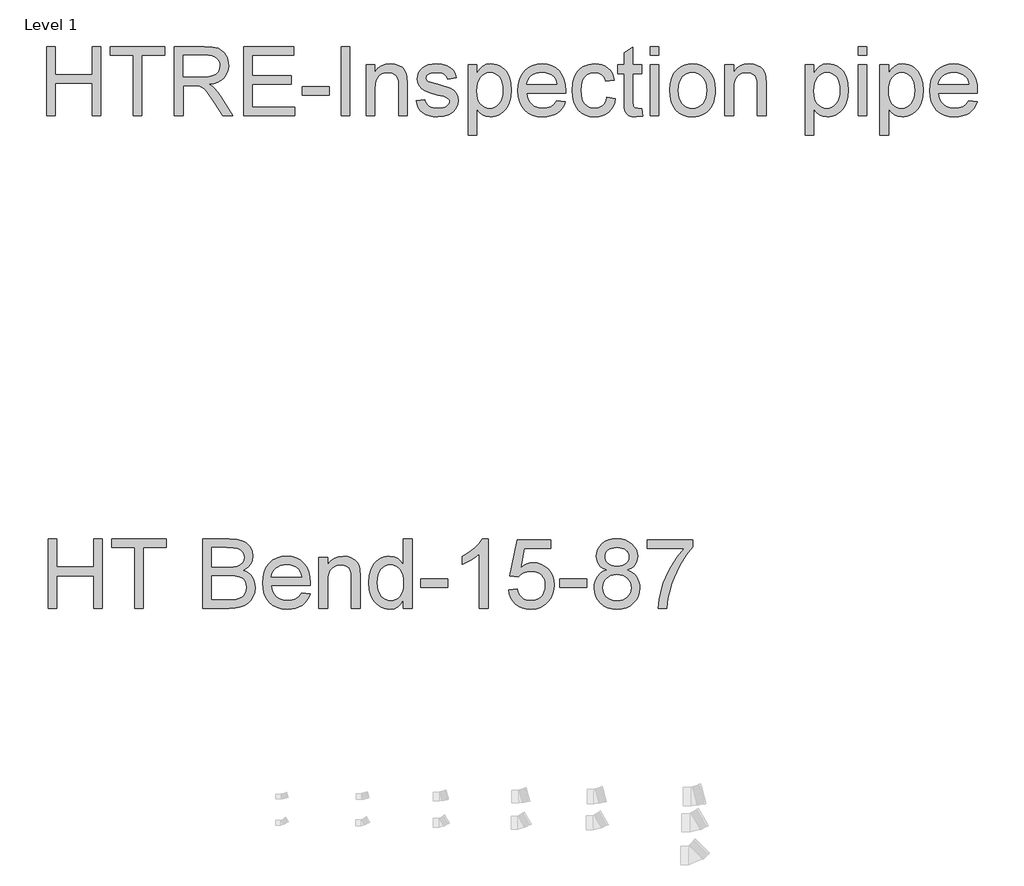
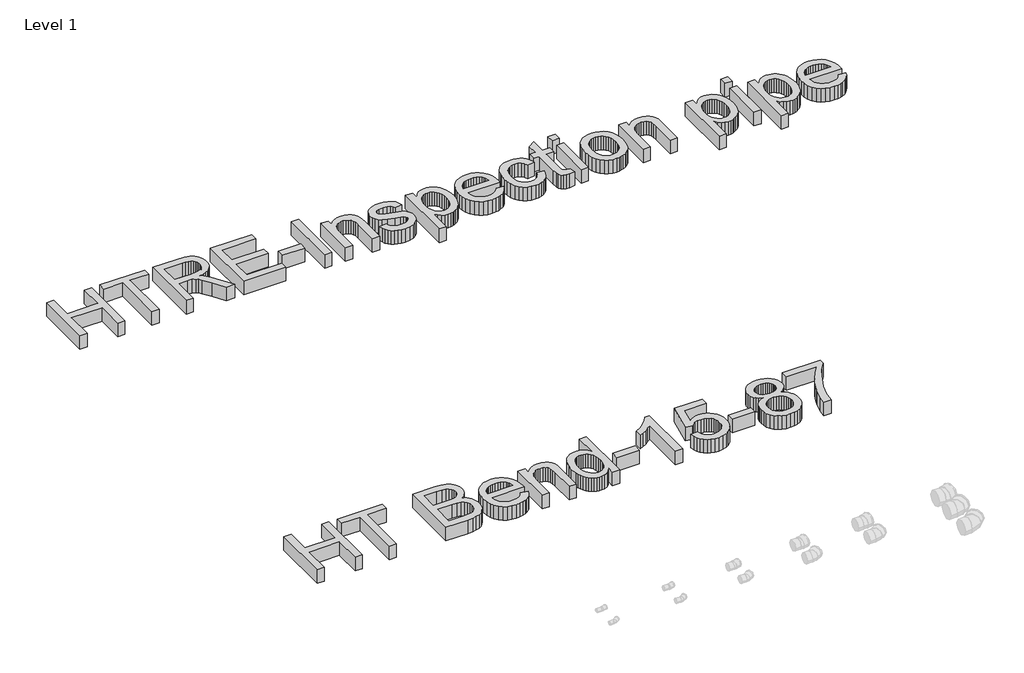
# One storey, part 24 of 29: 2 proxies.
"""IFC4 building model written with IfcOpenShell, lengths in millimetres."""

from ifc_helpers import new_model, si_unit, origin, origin_with_axes, place, context, project, spatial, polyline, outline, extrude, element, save

model = new_model("IFC4")

# Units and contexts
model_context = context("Model", 3, world=origin())
ifc_project = project(units=[si_unit("LENGTHUNIT", "METRE", prefix="MILLI")], contexts=[model_context])

# Site, building, storey
site = spatial("IfcSite", under=ifc_project)
building = spatial("IfcBuilding", under=site)
storey = spatial("IfcBuildingStorey", under=building, Name="Level 1", Elevation=0.0)

# Proxies
placement = place(None, origin())
element("IfcBuildingElementProxy", 1, Name="600mm Arial", ObjectType="600mm Arial", at=placement, inside=storey, context=model_context, shape_type="SweptSolid", body=[
    extrude(outline(polyline([(14553.2203393, 30231.2955865), (14553.2203393, 30834.0334474), (14628.5625719, 30834.0334474), (14628.5625719, 30589.1711914), (14948.7670605, 30589.1711914), (14948.7670605, 30834.0334474), (15024.1092931, 30834.0334474), (15024.1092931, 30231.2955865), (14948.7670605, 30231.2955865), (14948.7670605, 30513.8289588), (14628.5625719, 30513.8289588), (14628.5625719, 30231.2955865), (14553.2203393, 30231.2955865)])), origin_with_axes(), (0.0, 0.0, 1.0), 150.0),
    extrude(outline(polyline([(15306.6426654, 30231.2955865), (15306.6426654, 30758.6912148), (15108.8693048, 30758.6912148), (15108.8693048, 30834.0334474), (15579.7582586, 30834.0334474), (15579.7582586, 30758.6912148), (15381.984898, 30758.6912148), (15381.984898, 30231.2955865), (15306.6426654, 30231.2955865)])), origin_with_axes(), (0.0, 0.0, 1.0), 150.0),
    extrude(outline(polyline([(15664.5182703, 30231.2955865), (15664.5182703, 30834.0334474), (15924.2429589, 30834.0334474), (15994.0485675, 30829.9683513), (16044.8346769, 30817.7730632), (16064.4335902, 30808.0793726), (16081.9539703, 30795.2586851), (16097.395817, 30779.3110006), (16110.7591305, 30760.2363191), (16121.5426715, 30739.0601118), (16129.2452007, 30716.8078496), (16133.8667183, 30693.4795326), (16135.4072241, 30669.0751607), (16132.8550428, 30638.1178909), (16125.1984988, 30609.6990067), (16112.4375921, 30583.8185084), (16094.5723227, 30560.4763958), (16071.3727644, 30540.41763), (16042.6089909, 30524.387172), (16008.2810022, 30512.3850219), (15968.3887983, 30504.4111797), (15993.220833, 30488.1875837), (16011.2102626, 30472.1847169), (16042.075562, 30435.5804584), (16072.2786738, 30394.6351923), (16172.7840349, 30231.2955865), (16085.22812, 30231.2955865), (16006.7956786, 30356.228312), (15950.1418514, 30438.9281846), (15929.0806072, 30463.0428493), (15910.3370195, 30477.9972524), (15874.5053132, 30492.3446503), (15830.8009321, 30494.9934006), (15739.8605029, 30494.9934006), (15739.8605029, 30231.2955865), (15664.5182703, 30231.2955865)]), holes=[polyline([(15739.8605029, 30570.3356332), (15908.4976095, 30570.3356332), (15956.9292742, 30573.0027777), (15994.50842, 30581.0042111), (16022.7985454, 30594.8733623), (16043.363149, 30615.1436603), (16055.8895309, 30639.6629952), (16060.0649915, 30666.2792576), (16058.0738302, 30685.5470771), (16052.1003463, 30703.0306689), (16042.1445398, 30718.730033), (16028.2064108, 30732.6451695), (16009.9640623, 30744.0403143), (15987.0955978, 30752.1797035), (15959.6010172, 30757.0633369), (15927.4803205, 30758.6912148), (15739.8605029, 30758.6912148), (15739.8605029, 30570.3356332)])]), origin_with_axes(), (0.0, 0.0, 1.0), 150.0),
    extrude(outline(polyline([(16267.2561312, 30231.2955865), (16267.2561312, 30834.0334474), (16700.4739687, 30834.0334474), (16700.4739687, 30758.6912148), (16342.5983638, 30758.6912148), (16342.5983638, 30579.7534123), (16681.6384106, 30579.7534123), (16681.6384106, 30504.4111797), (16342.5983638, 30504.4111797), (16342.5983638, 30306.6378191), (16709.8917478, 30306.6378191), (16709.8917478, 30231.2955865), (16267.2561312, 30231.2955865)])), origin_with_axes(), (0.0, 0.0, 1.0), 150.0),
    extrude(outline(polyline([(16775.8162014, 30410.2333889), (16775.8162014, 30485.5756216), (17011.2606783, 30485.5756216), (17011.2606783, 30410.2333889), (16775.8162014, 30410.2333889)])), origin_with_axes(), (0.0, 0.0, 1.0), 150.0),
    extrude(outline(polyline([(17114.8562481, 30231.2955865), (17114.8562481, 30834.0334474), (17190.1984807, 30834.0334474), (17190.1984807, 30231.2955865), (17114.8562481, 30231.2955865)])), origin_with_axes(), (0.0, 0.0, 1.0), 150.0),
    extrude(outline(polyline([(17331.4651669, 30231.2955865), (17331.4651669, 30673.9312031), (17406.8073995, 30673.9312031), (17406.8073995, 30612.1270279), (17432.9822034, 30643.2866329), (17464.4177199, 30665.5434936), (17501.1139489, 30678.89761), (17543.0708905, 30683.3489822), (17580.2085779, 30679.7621327), (17614.2192684, 30669.0015843), (17642.5829702, 30652.4101064), (17662.7796917, 30631.330468), (17676.483296, 30605.8178517), (17685.3676462, 30575.9274396), (17689.3407718, 30503.0868045), (17689.3407718, 30231.2955865), (17613.9985392, 30231.2955865), (17613.9985392, 30492.9332615), (17611.8280354, 30531.8919647), (17605.3165241, 30559.593479), (17593.3051769, 30579.4407126), (17574.6351657, 30594.8365741), (17550.7044419, 30604.7142057), (17522.9109572, 30608.0067495), (17500.0332956, 30606.1581425), (17478.7835118, 30600.6123214), (17459.1616059, 30591.3692863), (17441.1675778, 30578.4290371), (17426.1349998, 30560.3200459), (17415.3974441, 30535.5707847), (17408.9549106, 30504.1812535), (17406.8073995, 30466.1514522), (17406.8073995, 30231.2955865), (17331.4651669, 30231.2955865)])), origin_with_axes(), (0.0, 0.0, 1.0), 150.0),
    extrude(outline(polyline([(17764.6830044, 30363.1444936), (17840.025237, 30372.5622726), (17844.5777767, 30355.3821835), (17851.9078254, 30340.3358099), (17862.0153833, 30327.4231518), (17874.9004501, 30316.6442094), (17890.5998143, 30308.1461353), (17909.1502639, 30302.0760824), (17954.8044195, 30297.22004), (17999.9067521, 30301.6714122), (18017.4363292, 30307.2356273), (18031.6181801, 30315.0255286), (18050.3801618, 30334.3761215), (18055.0706573, 30345.2102463), (18056.6341558, 30356.8169232), (18055.0614602, 30366.9888604), (18050.3433736, 30376.0203634), (18031.4710273, 30390.6620668), (18003.2544783, 30400.2269987), (17953.9215027, 30412.1463753), (17885.1643578, 30432.0303972), (17840.4666954, 30449.0081512), (17811.7535057, 30467.5310097), (17790.9497788, 30492.0503447), (17778.3130323, 30521.0026577), (17774.1007835, 30552.8244503), (17777.4852978, 30582.0158866), (17787.6388409, 30608.9632427), (17803.6417077, 30632.5996609), (17824.5741932, 30651.8582834), (17845.37792, 30663.9799951), (17872.472429, 30674.1519323), (17903.7975809, 30681.0497197), (17937.2932365, 30683.3489822), (17986.3319065, 30679.6517681), (18028.9694297, 30668.560126), (18063.2560317, 30651.1593076), (18087.2419378, 30628.5345649), (18103.13444, 30599.0120348), (18113.1408302, 30560.9178542), (18037.7985976, 30551.5000751), (18028.288848, 30575.2100697), (18009.471684, 30593.0707405), (17981.1631645, 30604.2727473), (17943.1793484, 30608.0067495), (17899.9164258, 30604.4382942), (17871.0744774, 30593.7329281), (17854.8508814, 30578.2818843), (17849.4430161, 30560.4763958), (17851.6870962, 30548.8881129), (17858.4193368, 30538.5506289), (17869.9340432, 30529.3167908), (17886.5255212, 30521.9223627), (17951.4199051, 30505.8827077), (18062.0052329, 30470.4188833), (18091.2150633, 30453.4595234), (18113.3615594, 30430.2461695), (18127.3226811, 30400.7052453), (18131.9763884, 30364.7631743), (18126.5133407, 30327.6070928), (18110.1241979, 30292.6583033), (18083.4343591, 30262.6575266), (18047.0692239, 30240.3454836), (18003.1441137, 30226.4947264), (17953.7743499, 30221.8778074), (17913.224557, 30224.1034935), (17877.8067179, 30230.7805517), (17847.5208327, 30241.908982), (17822.3669012, 30257.4887845), (17801.8206918, 30277.4463828), (17785.3579725, 30301.7082004), (17772.9787434, 30330.2742373), (17764.6830044, 30363.1444936)])), origin_with_axes(), (0.0, 0.0, 1.0), 150.0),
    extrude(outline(polyline([(18216.7364001, 30061.7755631), (18216.7364001, 30673.9312031), (18292.0786327, 30673.9312031), (18292.0786327, 30600.0604984), (18316.65315, 30636.4992101), (18344.1707232, 30662.5268612), (18376.2500332, 30678.1434519), (18414.5097607, 30683.3489822), (18440.7857322, 30681.5279663), (18465.461417, 30676.0649187), (18488.5368151, 30666.9598393), (18510.0119266, 30654.2127281), (18529.4177019, 30638.1546791), (18546.2850913, 30619.1167858), (18560.6140951, 30597.0990484), (18572.404713, 30572.1014668), (18588.1868506, 30516.5880737), (18593.4475631, 30455.9979091), (18587.5062689, 30391.5633777), (18580.0796511, 30361.8982933), (18569.6823862, 30333.9346631), (18556.4570285, 30308.4036527), (18540.5461322, 30286.0364274), (18521.9496974, 30266.8329872), (18500.6677239, 30250.7933322), (18477.7440771, 30238.1427901), (18454.222622, 30229.1066886), (18430.1033587, 30223.6850277), (18405.3862872, 30221.8778074), (18370.7501973, 30226.7154556), (18339.8297156, 30241.2284004), (18313.3606061, 30263.1357732), (18292.0786327, 30290.1567057), (18292.0786327, 30061.7755631), (18216.7364001, 30061.7755631)]), holes=[polyline([(18292.0786327, 30449.0817276), (18294.1157792, 30412.7717747), (18300.2272189, 30381.5385933), (18310.4129516, 30355.3821835), (18324.6729774, 30334.3025451), (18341.839271, 30318.0789491), (18360.7438071, 30306.4906663), (18381.3865855, 30299.5376966), (18403.7676064, 30297.22004), (18426.470524, 30299.62047), (18447.4903815, 30306.8217601), (18466.8271789, 30318.8239102), (18484.4809162, 30335.6269203), (18499.1915974, 30357.4699138), (18509.6992269, 30384.5920139), (18516.0038046, 30416.9932206), (18518.1053305, 30454.673534), (18516.0543884, 30490.6707872), (18509.901562, 30521.8487863), (18499.6468514, 30548.2075312), (18485.2902565, 30569.747022), (18468.0825762, 30586.4856528), (18449.2746092, 30598.4418177), (18428.8663555, 30605.6155166), (18406.8578152, 30608.0067495), (18384.9182527, 30605.4637653), (18364.2754742, 30597.8348124), (18344.9294798, 30585.1198909), (18326.8802694, 30567.3190009), (18311.6545533, 30544.6712656), (18300.7790419, 30517.4158082), (18294.253735, 30485.5526289), (18292.0786327, 30449.0817276)])]), origin_with_axes(), (0.0, 0.0, 1.0), 150.0),
    extrude(outline(polyline([(18988.1113675, 30363.1444936), (19061.9820722, 30353.7267145), (19050.6559053, 30324.139805), (19035.3658098, 30298.0661686), (19016.1117859, 30275.5058053), (18992.8938335, 30256.458715), (18965.9510759, 30241.3295679), (18935.5226363, 30230.5230343), (18901.6085149, 30224.0391141), (18864.2087116, 30221.8778074), (18817.460107, 30225.6072111), (18775.8066681, 30236.7954223), (18739.2483949, 30255.4424409), (18707.7852872, 30281.548267), (18682.484203, 30314.3863336), (18664.412, 30353.2300738), (18653.5686782, 30398.0794875), (18649.9542376, 30448.9345748), (18653.6054664, 30501.514109), (18664.5591528, 30547.8580433), (18682.8152968, 30587.9663779), (18708.3738984, 30621.8391126), (18739.7542326, 30648.7496805), (18775.4755743, 30667.9715148), (18815.5379236, 30679.5046153), (18859.9412804, 30683.3489822), (18902.914496, 30679.5138124), (18941.7766303, 30668.008303), (18976.5276832, 30648.832454), (19007.1676549, 30621.9862654), (19032.179032, 30588.1871071), (19050.0443014, 30548.1523489), (19060.7634631, 30501.881991), (19064.3365169, 30449.3760332), (19063.8950586, 30429.0689471), (18725.2964702, 30429.0689471), (18729.6604704, 30399.003791), (18738.3378869, 30372.6726372), (18751.3287199, 30350.0754857), (18768.6329692, 30331.2123364), (18789.2941418, 30316.3407067), (18812.3557444, 30305.7181141), (18837.8177769, 30299.3445585), (18865.6802396, 30297.22004), (18905.779377, 30301.1563774), (18939.5509442, 30312.9653894), (18966.994941, 30333.3828401), (18988.1113675, 30363.1444936)]), holes=[polyline([(18725.2964702, 30504.4111797), (18988.9942843, 30504.4111797), (18978.8039531, 30544.2160116), (18970.0391645, 30559.8693905), (18958.8279607, 30572.690078), (18938.2817513, 30588.1411218), (18914.9028505, 30599.1775817), (18888.6912584, 30605.7994576), (18859.6469748, 30608.0067495), (18833.1548727, 30606.2455145), (18808.8608654, 30600.9618093), (18786.7649531, 30592.1556341), (18766.8671356, 30579.8269887), (18750.1698916, 30564.5460903), (18737.6756993, 30546.883156), (18729.3845589, 30526.8381858), (18725.2964702, 30504.4111797)])]), origin_with_axes(), (0.0, 0.0, 1.0), 150.0),
    extrude(outline(polyline([(19422.2121219, 30391.3978308), (19497.5543545, 30381.9800517), (19489.359783, 30346.4288554), (19476.5482925, 30314.9703463), (19459.119883, 30287.6045244), (19437.0745545, 30264.3313897), (19411.3412089, 30245.7579474), (19382.8487484, 30232.491203), (19351.5971729, 30224.5311563), (19317.5864824, 30221.8778074), (19275.3306368, 30225.57962), (19237.4433898, 30236.6850577), (19203.9247415, 30255.1941206), (19174.7746919, 30281.1068086), (19151.1796604, 30313.9356782), (19134.3260665, 30353.1932856), (19124.2139102, 30398.8796309), (19120.8431914, 30450.994714), (19126.6005446, 30518.0412076), (19133.7972362, 30548.2121298), (19143.8726043, 30576.1481688), (19156.8956269, 30601.2883046), (19172.9352819, 30623.0715172), (19191.9915693, 30641.4978067), (19214.064489, 30656.5671729), (19238.1561611, 30668.2842145), (19263.2687058, 30676.6535298), (19289.4021231, 30681.6751191), (19316.5564128, 30683.3489822), (19349.9830906, 30681.0497197), (19380.2183921, 30674.1519323), (19407.2623173, 30662.6556199), (19431.1148661, 30646.5607826), (19451.3713685, 30626.2353024), (19467.6271542, 30602.0470612), (19479.8822231, 30573.9960591), (19488.1365754, 30542.082296), (19412.7943428, 30532.6645169), (19399.1275267, 30565.5347732), (19377.8455532, 30589.097615), (19350.1256449, 30603.2794659), (19317.145024, 30608.0067495), (19291.5450357, 30605.6798959), (19268.455842, 30598.6993351), (19247.8774429, 30587.065067), (19229.8098384, 30570.7770916), (19215.0991571, 30549.45833), (19204.5915276, 30522.7317031), (19198.2869499, 30490.5972108), (19196.185424, 30453.0548532), (19198.2409647, 30414.946877), (19204.4075866, 30382.4399042), (19214.6852899, 30355.5339348), (19229.0740744, 30334.2289687), (19246.7829939, 30318.0375624), (19267.0211022, 30306.4722722), (19289.7883992, 30299.5330981), (19315.0848849, 30297.22004), (19354.0987705, 30302.9957873), (19370.9707585, 30310.2154715), (19386.0861099, 30320.3230293), (19399.0217606, 30333.4288254), (19409.3546461, 30349.6432243), (19417.0847665, 30368.9662261), (19422.2121219, 30391.3978308)])), origin_with_axes(), (0.0, 0.0, 1.0), 150.0),
    extrude(outline(polyline([(19723.5810523, 30294.1298313), (19732.9988314, 30229.0882945), (19676.6393097, 30221.8778074), (19640.4765096, 30225.0048044), (19613.5107593, 30234.3857952), (19594.454472, 30248.8435577), (19582.0200606, 30267.2008692), (19575.1774555, 30298.7283562), (19572.8965871, 30352.6966449), (19572.8965871, 30598.5889705), (19516.3899126, 30598.5889705), (19516.3899126, 30673.9312031), (19572.8965871, 30673.9312031), (19572.8965871, 30781.4998985), (19648.2388197, 30825.7928907), (19648.2388197, 30673.9312031), (19723.5810523, 30673.9312031), (19723.5810523, 30598.5889705), (19648.2388197, 30598.5889705), (19648.2388197, 30354.9039369), (19652.2119452, 30316.0555982), (19665.0878151, 30302.2968116), (19675.958728, 30298.4892329), (19690.7659783, 30297.22004), (19723.5810523, 30294.1298313)])), origin_with_axes(), (0.0, 0.0, 1.0), 150.0),
    extrude(outline(polyline([(19798.9232849, 30758.6912148), (19798.9232849, 30834.0334474), (19874.2655175, 30834.0334474), (19874.2655175, 30758.6912148), (19798.9232849, 30758.6912148)])), origin_with_axes(), (0.0, 0.0, 1.0), 150.0),
    extrude(outline(polyline([(19798.9232849, 30231.2955865), (19798.9232849, 30673.9312031), (19874.2655175, 30673.9312031), (19874.2655175, 30231.2955865), (19798.9232849, 30231.2955865)])), origin_with_axes(), (0.0, 0.0, 1.0), 150.0),
    extrude(outline(polyline([(19968.4433083, 30452.6133948), (19972.5176014, 30509.9386067), (19984.7404807, 30559.3359616), (20005.1119462, 30600.8054595), (20033.6319978, 30634.3471004), (20062.3451876, 30655.7854237), (20094.0382214, 30671.0985117), (20128.7110995, 30680.2863645), (20166.3638217, 30683.3489822), (20207.9298886, 30679.6195784), (20245.513633, 30668.4313673), (20279.1150547, 30649.7843486), (20308.7341538, 30623.6785225), (20332.9085994, 30590.9968058), (20350.1760606, 30552.6221152), (20360.5365373, 30508.5544507), (20363.9900295, 30458.7938123), (20362.4633192, 30418.4647486), (20357.8831884, 30382.6790275), (20350.249637, 30351.4366491), (20339.562665, 30324.7376133), (20325.9556297, 30301.6760107), (20309.5618883, 30281.3459319), (20290.3814408, 30263.747377), (20268.4142872, 30248.8803459), (20244.5157531, 30237.0667353), (20219.5411641, 30228.628442), (20193.4905203, 30223.5654661), (20166.3638217, 30221.8778074), (20124.1907495, 30225.5934156), (20086.2575173, 30236.74024), (20052.564125, 30255.3182808), (20023.1105728, 30281.3275378), (19999.1936446, 30314.3265528), (19982.1101244, 30353.8738673), (19971.8600123, 30399.9694813), (19968.4433083, 30452.6133948)]), holes=[polyline([(20043.7855409, 30452.7605476), (20045.9652417, 30416.2160699), (20052.5043442, 30384.5736198), (20063.4028483, 30357.8331973), (20078.6607541, 30335.9948023), (20097.2204007, 30319.0308438), (20118.0241275, 30306.9137306), (20141.0719345, 30299.6434627), (20166.3638217, 30297.22004), (20191.5269502, 30299.6572582), (20214.4827867, 30306.9689129), (20235.2313312, 30319.155004), (20253.7725838, 30336.2155315), (20269.0304895, 30358.2700571), (20279.9289936, 30385.4381425), (20286.4680961, 30417.7197875), (20288.6477969, 30455.1149923), (20286.4543005, 30490.5006418), (20279.8738113, 30521.3153574), (20268.9063293, 30547.5591392), (20253.5518546, 30569.2319873), (20234.9416241, 30586.1959458), (20214.2068752, 30598.313059), (20191.3476077, 30605.5833269), (20166.3638217, 30608.0067495), (20141.0719345, 30605.592524), (20118.0241275, 30598.3498472), (20097.2204007, 30586.2787192), (20078.6607541, 30569.3791401), (20063.4028483, 30547.6051245), (20052.5043442, 30520.9106872), (20045.9652417, 30489.2958282), (20043.7855409, 30452.7605476)])]), origin_with_axes(), (0.0, 0.0, 1.0), 150.0),
    extrude(outline(polyline([(20448.7500412, 30231.2955865), (20448.7500412, 30673.9312031), (20524.0922738, 30673.9312031), (20524.0922738, 30612.1270279), (20550.2670778, 30643.2866329), (20581.7025943, 30665.5434936), (20618.3988233, 30678.89761), (20660.3557648, 30683.3489822), (20697.4934522, 30679.7621327), (20731.5041427, 30669.0015843), (20759.8678445, 30652.4101064), (20780.0645661, 30631.330468), (20793.7681704, 30605.8178517), (20802.6525206, 30575.9274396), (20806.6256461, 30503.0868045), (20806.6256461, 30231.2955865), (20731.2834135, 30231.2955865), (20731.2834135, 30492.9332615), (20729.1129097, 30531.8919647), (20722.6013984, 30559.593479), (20710.5900513, 30579.4407126), (20691.92004, 30594.8365741), (20667.9893162, 30604.7142057), (20640.1958315, 30608.0067495), (20617.3181699, 30606.1581425), (20596.0683862, 30600.6123214), (20576.4464802, 30591.3692863), (20558.4524522, 30578.4290371), (20543.4198741, 30560.3200459), (20532.6823184, 30535.5707847), (20526.239785, 30504.1812535), (20524.0922738, 30466.1514522), (20524.0922738, 30231.2955865), (20448.7500412, 30231.2955865)])), origin_with_axes(), (0.0, 0.0, 1.0), 150.0),
    extrude(outline(polyline([(21145.6656929, 30061.7755631), (21145.6656929, 30673.9312031), (21221.0079255, 30673.9312031), (21221.0079255, 30600.0604984), (21245.5824428, 30636.4992101), (21273.100016, 30662.5268612), (21305.179326, 30678.1434519), (21343.4390535, 30683.3489822), (21369.715025, 30681.5279663), (21394.3907098, 30676.0649187), (21417.4661079, 30666.9598393), (21438.9412194, 30654.2127281), (21458.3469947, 30638.1546791), (21475.2143841, 30619.1167858), (21489.5433879, 30597.0990484), (21501.3340058, 30572.1014668), (21517.1161434, 30516.5880737), (21522.3768559, 30455.9979091), (21516.4355617, 30391.5633777), (21509.0089439, 30361.8982933), (21498.611679, 30333.9346631), (21485.3863213, 30308.4036527), (21469.475425, 30286.0364274), (21450.8789902, 30266.8329872), (21429.5970167, 30250.7933322), (21406.6733699, 30238.1427901), (21383.1519148, 30229.1066886), (21359.0326515, 30223.6850277), (21334.31558, 30221.8778074), (21299.6794901, 30226.7154556), (21268.7590084, 30241.2284004), (21242.2898989, 30263.1357732), (21221.0079255, 30290.1567057), (21221.0079255, 30061.7755631), (21145.6656929, 30061.7755631)]), holes=[polyline([(21221.0079255, 30449.0817276), (21223.045072, 30412.7717747), (21229.1565117, 30381.5385933), (21239.3422444, 30355.3821835), (21253.6022702, 30334.3025451), (21270.7685638, 30318.0789491), (21289.6730999, 30306.4906663), (21310.3158783, 30299.5376966), (21332.6968992, 30297.22004), (21355.3998168, 30299.62047), (21376.4196743, 30306.8217601), (21395.7564717, 30318.8239102), (21413.410209, 30335.6269203), (21428.1208902, 30357.4699138), (21438.6285197, 30384.5920139), (21444.9330974, 30416.9932206), (21447.0346233, 30454.673534), (21444.9836812, 30490.6707872), (21438.8308548, 30521.8487863), (21428.5761442, 30548.2075312), (21414.2195493, 30569.747022), (21397.011869, 30586.4856528), (21378.203902, 30598.4418177), (21357.7956483, 30605.6155166), (21335.787108, 30608.0067495), (21313.8475455, 30605.4637653), (21293.204767, 30597.8348124), (21273.8587726, 30585.1198909), (21255.8095622, 30567.3190009), (21240.5838461, 30544.6712656), (21229.7083347, 30517.4158082), (21223.1830278, 30485.5526289), (21221.0079255, 30449.0817276)])]), origin_with_axes(), (0.0, 0.0, 1.0), 150.0),
    extrude(outline(polyline([(21607.1368676, 30758.6912148), (21607.1368676, 30834.0334474), (21682.4791002, 30834.0334474), (21682.4791002, 30758.6912148), (21607.1368676, 30758.6912148)])), origin_with_axes(), (0.0, 0.0, 1.0), 150.0),
    extrude(outline(polyline([(21607.1368676, 30231.2955865), (21607.1368676, 30673.9312031), (21682.4791002, 30673.9312031), (21682.4791002, 30231.2955865), (21607.1368676, 30231.2955865)])), origin_with_axes(), (0.0, 0.0, 1.0), 150.0),
    extrude(outline(polyline([(21795.4924491, 30061.7755631), (21795.4924491, 30673.9312031), (21870.8346818, 30673.9312031), (21870.8346818, 30600.0604984), (21895.409199, 30636.4992101), (21922.9267723, 30662.5268612), (21955.0060823, 30678.1434519), (21993.2658097, 30683.3489822), (22019.5417813, 30681.5279663), (22044.2174661, 30676.0649187), (22067.2928642, 30666.9598393), (22088.7679757, 30654.2127281), (22108.1737509, 30638.1546791), (22125.0411404, 30619.1167858), (22139.3701441, 30597.0990484), (22151.1607621, 30572.1014668), (22166.9428997, 30516.5880737), (22172.2036122, 30455.9979091), (22166.262318, 30391.5633777), (22158.8357002, 30361.8982933), (22148.4384353, 30333.9346631), (22135.2130776, 30308.4036527), (22119.3021813, 30286.0364274), (22100.7057464, 30266.8329872), (22079.423773, 30250.7933322), (22056.5001262, 30238.1427901), (22032.9786711, 30229.1066886), (22008.8594078, 30223.6850277), (21984.1423363, 30221.8778074), (21949.5062464, 30226.7154556), (21918.5857647, 30241.2284004), (21892.1166552, 30263.1357732), (21870.8346818, 30290.1567057), (21870.8346818, 30061.7755631), (21795.4924491, 30061.7755631)]), holes=[polyline([(21870.8346818, 30449.0817276), (21872.8718283, 30412.7717747), (21878.9832679, 30381.5385933), (21889.1690007, 30355.3821835), (21903.4290265, 30334.3025451), (21920.5953201, 30318.0789491), (21939.4998562, 30306.4906663), (21960.1426346, 30299.5376966), (21982.5236555, 30297.22004), (22005.2265731, 30299.62047), (22026.2464306, 30306.8217601), (22045.583228, 30318.8239102), (22063.2369652, 30335.6269203), (22077.9476465, 30357.4699138), (22088.455276, 30384.5920139), (22094.7598537, 30416.9932206), (22096.8613796, 30454.673534), (22094.8104375, 30490.6707872), (22088.6576111, 30521.8487863), (22078.4029005, 30548.2075312), (22064.0463056, 30569.747022), (22046.8386253, 30586.4856528), (22028.0306583, 30598.4418177), (22007.6224046, 30605.6155166), (21985.6138642, 30608.0067495), (21963.6743018, 30605.4637653), (21943.0315233, 30597.8348124), (21923.6855289, 30585.1198909), (21905.6363185, 30567.3190009), (21890.4106024, 30544.6712656), (21879.5350909, 30517.4158082), (21873.0097841, 30485.5526289), (21870.8346818, 30449.0817276)])]), origin_with_axes(), (0.0, 0.0, 1.0), 150.0),
    extrude(outline(polyline([(22566.8674166, 30363.1444936), (22640.7381213, 30353.7267145), (22629.4119543, 30324.139805), (22614.1218589, 30298.0661686), (22594.867835, 30275.5058053), (22571.6498826, 30256.458715), (22544.7071249, 30241.3295679), (22514.2786854, 30230.5230343), (22480.364564, 30224.0391141), (22442.9647607, 30221.8778074), (22396.2161561, 30225.6072111), (22354.5627172, 30236.7954223), (22318.0044439, 30255.4424409), (22286.5413363, 30281.548267), (22261.2402521, 30314.3863336), (22243.1680491, 30353.2300738), (22232.3247273, 30398.0794875), (22228.7102867, 30448.9345748), (22232.3615155, 30501.514109), (22243.3152019, 30547.8580433), (22261.5713459, 30587.9663779), (22287.1299475, 30621.8391126), (22318.5102817, 30648.7496805), (22354.2316234, 30667.9715148), (22394.2939727, 30679.5046153), (22438.6973295, 30683.3489822), (22481.6705451, 30679.5138124), (22520.5326793, 30668.008303), (22555.2837323, 30648.832454), (22585.923704, 30621.9862654), (22610.9350811, 30588.1871071), (22628.8003505, 30548.1523489), (22639.5195122, 30501.881991), (22643.092566, 30449.3760332), (22642.6511076, 30429.0689471), (22304.0525193, 30429.0689471), (22308.4165194, 30399.003791), (22317.093936, 30372.6726372), (22330.084769, 30350.0754857), (22347.3890183, 30331.2123364), (22368.0501909, 30316.3407067), (22391.1117934, 30305.7181141), (22416.573826, 30299.3445585), (22444.4362886, 30297.22004), (22484.5354261, 30301.1563774), (22518.3069933, 30312.9653894), (22545.7509901, 30333.3828401), (22566.8674166, 30363.1444936)]), holes=[polyline([(22304.0525193, 30504.4111797), (22567.7503334, 30504.4111797), (22557.5600022, 30544.2160116), (22548.7952136, 30559.8693905), (22537.5840098, 30572.690078), (22517.0378004, 30588.1411218), (22493.6588996, 30599.1775817), (22467.4473074, 30605.7994576), (22438.4030239, 30608.0067495), (22411.9109217, 30606.2455145), (22387.6169145, 30600.9618093), (22365.5210021, 30592.1556341), (22345.6231847, 30579.8269887), (22328.9259407, 30564.5460903), (22316.4317484, 30546.883156), (22308.1406079, 30526.8381858), (22304.0525193, 30504.4111797)])]), origin_with_axes(), (0.0, 0.0, 1.0), 150.0),
])
element("IfcBuildingElementProxy", 2, Name="600mm Arial", ObjectType="600mm Arial", at=placement, inside=storey, context=model_context, shape_type="SweptSolid", body=[
    extrude(outline(polyline([(14566.0777971, 25950.1836085), (14566.0777971, 26552.9214694), (14641.4200297, 26552.9214694), (14641.4200297, 26308.0592134), (14961.6245183, 26308.0592134), (14961.6245183, 26552.9214694), (15036.9667509, 26552.9214694), (15036.9667509, 25950.1836085), (14961.6245183, 25950.1836085), (14961.6245183, 26232.7169808), (14641.4200297, 26232.7169808), (14641.4200297, 25950.1836085), (14566.0777971, 25950.1836085)])), origin_with_axes(), (0.0, 0.0, 1.0), 150.0),
    extrude(outline(polyline([(15319.5001232, 25950.1836085), (15319.5001232, 26477.5792368), (15121.7267626, 26477.5792368), (15121.7267626, 26552.9214694), (15592.6157164, 26552.9214694), (15592.6157164, 26477.5792368), (15394.8423558, 26477.5792368), (15394.8423558, 25950.1836085), (15319.5001232, 25950.1836085)])), origin_with_axes(), (0.0, 0.0, 1.0), 150.0),
    extrude(outline(polyline([(15912.820205, 25950.1836085), (15912.820205, 26552.9214694), (16142.8200284, 26552.9214694), (16206.0773375, 26548.4884913), (16255.4654953, 26535.1895572), (16275.5426552, 26525.1325832), (16293.3205526, 26512.6935732), (16308.7991876, 26497.8725273), (16321.97856, 26480.6694455), (16340.0231719, 26442.9983292), (16346.0380425, 26403.5613793), (16340.9796651, 26367.2698205), (16325.8045328, 26333.1487655), (16300.402281, 26303.2951416), (16264.6625452, 26279.8058762), (16287.402251, 26270.1121856), (16307.3552507, 26257.5122273), (16324.5215443, 26242.0060012), (16338.9011318, 26223.5935073), (16350.264087, 26202.8357657), (16358.3804835, 26180.2937965), (16363.2503214, 26155.9675995), (16364.8736007, 26129.8571749), (16360.4406226, 26087.826657), (16347.1416885, 26048.8495596), (16327.2944549, 26015.7033918), (16303.2165783, 25991.1656628), (16273.7308364, 25973.3969624), (16237.6600068, 25960.5578808), (16193.826867, 25952.7771766), (16141.0541948, 25950.1836085), (15912.820205, 25950.1836085)]), holes=[polyline([(15988.1624376, 26025.5258411), (16142.6728756, 26025.5258411), (16198.5909389, 26028.4688971), (16224.5450136, 26034.9988025), (16245.9005634, 26044.876434), (16263.2645936, 26059.0214968), (16277.2441094, 26078.3536956), (16286.4595534, 26102.0085079), (16289.5313681, 26129.1214109), (16285.9261245, 26160.6121097), (16275.1103939, 26187.6882246), (16256.2196534, 26208.8598334), (16228.3893805, 26222.6370141), (16188.9708247, 26230.1969891), (16135.3152357, 26232.7169808), (15988.1624376, 26232.7169808), (15988.1624376, 26025.5258411)]), polyline([(15988.1624376, 26308.0592134), (16125.7503038, 26308.0592134), (16173.8692688, 26309.6778942), (16206.0957316, 26314.5339365), (16234.2203101, 26325.6991551), (16254.4354257, 26342.4193917), (16266.6307139, 26364.4371292), (16270.6958099, 26391.4948499), (16266.9066254, 26417.7616244), (16255.5390717, 26440.6438845), (16237.1081838, 26458.5045553), (16212.1289963, 26469.7065621), (16173.7956924, 26475.6110681), (16115.3024552, 26477.5792368), (15988.1624376, 26477.5792368), (15988.1624376, 26308.0592134)])]), origin_with_axes(), (0.0, 0.0, 1.0), 150.0),
    extrude(outline(polyline([(16768.9551842, 26082.0325156), (16842.8258888, 26072.6147365), (16831.4997219, 26043.027827), (16816.2096265, 26016.9541906), (16796.9556025, 25994.3938273), (16773.7376501, 25975.346737), (16746.7948925, 25960.2175899), (16716.366453, 25949.4110563), (16682.4523315, 25942.9271361), (16645.0525282, 25940.7658294), (16598.3039237, 25944.4952331), (16556.6504848, 25955.6834443), (16520.0922115, 25974.3304629), (16488.6291039, 26000.436289), (16463.3280196, 26033.2743556), (16445.2558166, 26072.1180958), (16434.4124948, 26116.9675095), (16430.7980542, 26167.8225968), (16434.449283, 26220.402131), (16445.4029694, 26266.7460653), (16463.6591134, 26306.8543999), (16489.2177151, 26340.7271346), (16520.5980492, 26367.6377025), (16556.319391, 26386.8595368), (16596.3817402, 26398.3926373), (16640.7850971, 26402.2370042), (16683.7583126, 26398.4018344), (16722.6204469, 26386.896325), (16757.3714999, 26367.720476), (16788.0114715, 26340.8742874), (16813.0228487, 26307.0751291), (16830.8881181, 26267.0403709), (16841.6072797, 26220.770013), (16845.1803336, 26168.2640552), (16844.7388752, 26147.9569691), (16506.1402868, 26147.9569691), (16510.504287, 26117.891813), (16519.1817036, 26091.5606592), (16532.1725365, 26068.9635077), (16549.4767859, 26050.1003584), (16570.1379584, 26035.2287287), (16593.199561, 26024.6061361), (16618.6615936, 26018.2325805), (16646.5240562, 26016.108062), (16686.6231937, 26020.0443994), (16720.3947608, 26031.8534114), (16747.8387577, 26052.2708622), (16768.9551842, 26082.0325156)]), holes=[polyline([(16506.1402868, 26223.2992017), (16769.838101, 26223.2992017), (16759.6477697, 26263.1040336), (16750.8829812, 26278.7574125), (16739.6717774, 26291.5781), (16719.1255679, 26307.0291438), (16695.7466671, 26318.0656037), (16669.535075, 26324.6874796), (16640.4907915, 26326.8947716), (16613.9986893, 26325.1335365), (16589.704682, 26319.8498313), (16567.6087697, 26311.0436561), (16547.7109523, 26298.7150107), (16531.0137082, 26283.4341123), (16518.519516, 26265.7711781), (16510.2283755, 26245.7262078), (16506.1402868, 26223.2992017)])]), origin_with_axes(), (0.0, 0.0, 1.0), 150.0),
    extrude(outline(polyline([(16920.5225662, 25950.1836085), (16920.5225662, 26392.8192251), (16995.8647988, 26392.8192251), (16995.8647988, 26331.0150499), (17022.0396028, 26362.1746549), (17053.4751193, 26384.4315156), (17090.1713483, 26397.785632), (17132.1282898, 26402.2370042), (17169.2659772, 26398.6501547), (17203.2766677, 26387.8896064), (17231.6403695, 26371.2981284), (17251.8370911, 26350.21849), (17265.5406954, 26324.7058737), (17274.4250456, 26294.8154616), (17278.3981711, 26221.9748265), (17278.3981711, 25950.1836085), (17203.0559385, 25950.1836085), (17203.0559385, 26211.8212835), (17200.8854347, 26250.7799867), (17194.3739234, 26278.481501), (17182.3625763, 26298.3287346), (17163.692565, 26313.7245961), (17139.7618412, 26323.6022277), (17111.9683565, 26326.8947716), (17089.0906949, 26325.0461645), (17067.8409112, 26319.5003434), (17048.2190052, 26310.2573083), (17030.2249772, 26297.3170591), (17015.1923991, 26279.2080679), (17004.4548434, 26254.4588067), (16998.01231, 26223.0692755), (16995.8647988, 26185.0394742), (16995.8647988, 25950.1836085), (16920.5225662, 25950.1836085)])), origin_with_axes(), (0.0, 0.0, 1.0), 150.0),
    extrude(outline(polyline([(17655.1093342, 25950.1836085), (17655.1093342, 26021.25841), (17632.5673649, 25986.042906), (17605.2613238, 25960.8889746), (17573.1912109, 25945.7966157), (17536.3570261, 25940.7658294), (17511.4882033, 25942.5868453), (17487.64945, 25948.0498929), (17464.8407663, 25957.1549723), (17443.0621521, 25969.9020834), (17422.9941893, 25985.9095487), (17405.3174594, 26004.7956907), (17390.0319625, 26026.5605092), (17377.1376986, 26051.2040044), (17366.9013821, 26078.2571266), (17359.5897274, 26107.2508263), (17353.7404037, 26171.0599584), (17359.1298749, 26234.0781442), (17375.2982886, 26290.9894888), (17387.4200004, 26316.3457553), (17402.2272507, 26338.5566308), (17419.7200396, 26357.6221152), (17439.898367, 26373.5422085), (17462.0494616, 26386.0961816), (17485.4605521, 26395.0633053), (17510.1316384, 26400.4435794), (17536.0627205, 26402.2370042), (17572.9244964, 26397.1050503), (17605.5188412, 26381.7091888), (17633.1467791, 26358.1095588), (17655.1093342, 26328.3662995), (17655.1093342, 26552.9214694), (17730.4515668, 26552.9214694), (17730.4515668, 25950.1836085), (17655.1093342, 25950.1836085)]), holes=[polyline([(17429.0826363, 26171.354264), (17431.2071549, 26134.8189833), (17437.5807104, 26103.2041244), (17448.203303, 26076.5096871), (17463.0749327, 26054.7356715), (17480.834436, 26037.8360924), (17500.1206496, 26025.7649644), (17520.9335735, 26018.5222876), (17543.2732076, 26016.108062), (17565.7186079, 26018.411923), (17586.4073716, 26025.323506), (17605.3394987, 26036.842811), (17622.5149894, 26052.9698379), (17636.7750152, 26073.8333456), (17646.960748, 26099.5620926), (17653.0721876, 26130.1560791), (17655.1093342, 26165.6153049), (17653.0353994, 26204.4912347), (17646.8135952, 26237.8305405), (17636.4439214, 26265.6332223), (17621.9263782, 26287.8992801), (17604.3738085, 26304.9598076), (17584.8990554, 26317.1458987), (17563.5021188, 26324.4575533), (17540.1829989, 26326.8947716), (17517.4019063, 26324.5541224), (17496.5889824, 26317.5321748), (17477.7442272, 26305.8289288), (17460.8676407, 26289.4443844), (17446.9617013, 26268.0198567), (17437.0288874, 26241.1966608), (17431.0691991, 26208.9747965), (17429.0826363, 26171.354264)])]), origin_with_axes(), (0.0, 0.0, 1.0), 150.0),
    extrude(outline(polyline([(17805.7937994, 26129.1214109), (17805.7937994, 26204.4636436), (18041.2382763, 26204.4636436), (18041.2382763, 26129.1214109), (17805.7937994, 26129.1214109)])), origin_with_axes(), (0.0, 0.0, 1.0), 150.0),
    extrude(outline(polyline([(18389.6961021, 25950.1836085), (18314.3538695, 25950.1836085), (18314.3538695, 26419.8953399), (18282.8999589, 26394.4563), (18242.9847625, 26369.0540482), (18201.0830032, 26346.8523698), (18163.6694043, 26331.0150499), (18163.6694043, 26402.2370042), (18222.8432232, 26434.4266787), (18274.1075793, 26472.7231944), (18314.5194164, 26513.4477313), (18341.1356788, 26552.9214694), (18389.6961021, 26552.9214694), (18389.6961021, 25950.1836085)])), origin_with_axes(), (0.0, 0.0, 1.0), 150.0),
    extrude(outline(polyline([(18568.6339046, 26110.2858528), (18643.9761372, 26119.7036319), (18649.6047317, 26095.483201), (18657.8085002, 26074.4725406), (18668.5874427, 26056.6716505), (18681.9415591, 26042.0805309), (18697.8432583, 26030.7175758), (18716.2649493, 26022.6011792), (18737.2066318, 26017.7313413), (18760.6683061, 26016.108062), (18789.3631017, 26018.3659378), (18814.673383, 26025.139565), (18836.5991499, 26036.4289437), (18855.1404024, 26052.234074), (18869.8832734, 26071.7732064), (18880.4138955, 26094.2645919), (18886.7322688, 26119.7082304), (18888.8383932, 26148.1041219), (18886.865626, 26174.9411134), (18880.9473244, 26198.7982608), (18871.0834884, 26219.6755641), (18857.274118, 26237.5730231), (18839.473228, 26251.929618), (18817.634833, 26262.1843286), (18791.7589332, 26268.337155), (18761.8455285, 26270.3880971), (18725.2964522, 26267.1139473), (18695.7003457, 26257.2914981), (18672.0639275, 26242.2451245), (18653.3939163, 26223.2992017), (18578.0516837, 26232.7169808), (18643.9761372, 26543.5036903), (18935.9272886, 26543.5036903), (18935.9272886, 26468.1614577), (18704.8973956, 26468.1614577), (18672.6709328, 26302.1731015), (18699.259604, 26321.2293888), (18726.4920687, 26334.8410226), (18754.3683269, 26343.0080029), (18782.8883786, 26345.7303297), (18819.5800091, 26342.3550124), (18853.2825984, 26332.2290605), (18883.9961464, 26315.352474), (18911.7206533, 26291.7252528), (18934.6718913, 26262.7913339), (18951.0656327, 26229.994654), (18960.9018775, 26193.3352132), (18964.1806258, 26152.8130114), (18961.2283728, 26113.7807317), (18952.3716138, 26077.4707788), (18937.6103487, 26043.8831527), (18916.9445776, 26013.0178533), (18885.6378198, 25981.4075928), (18849.1071377, 25958.8288354), (18807.3525313, 25945.2815809), (18760.3740005, 25940.7658294), (18721.4934721, 25943.6674987), (18686.3745371, 25952.3725064), (18655.0171956, 25966.8808525), (18627.4214474, 25987.1925372), (18604.4610124, 26012.2958849), (18587.0096102, 26041.17922), (18575.067241, 26073.8425426), (18568.6339046, 26110.2858528)])), origin_with_axes(), (0.0, 0.0, 1.0), 150.0),
    extrude(outline(polyline([(19011.2695212, 26129.1214109), (19011.2695212, 26204.4636436), (19246.7139981, 26204.4636436), (19246.7139981, 26129.1214109), (19011.2695212, 26129.1214109)])), origin_with_axes(), (0.0, 0.0, 1.0), 150.0),
    extrude(outline(polyline([(19422.414439, 26282.1603209), (19382.0761782, 26302.0259487), (19366.4182008, 26314.6075129), (19353.7676587, 26328.9549107), (19337.047422, 26362.3953841), (19331.4740098, 26401.7955458), (19334.5090362, 26432.5228894), (19343.6141156, 26460.6934532), (19358.7892479, 26486.3072371), (19380.0344332, 26509.3642412), (19406.3287988, 26528.4205285), (19436.6514722, 26542.0321623), (19471.0024535, 26550.1991426), (19509.3817427, 26552.9214694), (19547.9449728, 26550.1347633), (19582.5534715, 26541.7746449), (19613.2072387, 26527.8411144), (19639.9062745, 26508.3341716), (19661.5377359, 26484.8265121), (19676.9887797, 26458.8908314), (19686.2594059, 26430.5271296), (19689.3496147, 26399.7354066), (19683.8497789, 26361.6044378), (19667.3502714, 26328.7341815), (19654.9296555, 26314.4833527), (19639.6671512, 26301.9707664), (19600.6164775, 26282.1603209), (19625.3795343, 26271.6251003), (19646.988003, 26258.2663854), (19665.4418835, 26242.0841761), (19680.741176, 26223.0784725), (19692.7479246, 26201.6723389), (19701.3241736, 26178.2888396), (19706.469923, 26152.9279746), (19708.1851729, 26125.5897438), (19704.7822644, 26088.010598), (19694.573539, 26053.5584491), (19677.5589968, 26022.2332972), (19653.7386376, 25994.0351423), (19624.3632602, 25970.7298179), (19590.6836636, 25954.0831576), (19552.6998476, 25944.0951615), (19510.4118122, 25940.7658294), (19468.1237769, 25944.108957), (19430.1399609, 25954.1383399), (19396.4603642, 25970.8539781), (19367.0849869, 25994.2558715), (19343.2646277, 26022.651763), (19326.2500855, 26054.3493954), (19316.0413601, 26089.3487687), (19312.6384516, 26127.649883), (19314.4226793, 26156.234314), (19319.7753623, 26182.3907238), (19328.6965007, 26206.1191125), (19341.1860945, 26227.4194801), (19356.9682321, 26245.9055503), (19375.767002, 26261.1910472), (19397.5824043, 26273.2759708), (19422.414439, 26282.1603209)]), holes=[polyline([(19406.8162424, 26399.5882538), (19408.485507, 26382.3161941), (19413.4933006, 26366.6996034), (19421.8396234, 26352.7384817), (19433.5244753, 26340.432829), (19448.4007034, 26330.3896505), (19466.3211551, 26323.2159516), (19487.2858303, 26318.9117323), (19511.294729, 26317.4769925), (19534.710418, 26318.9025352), (19555.2198393, 26323.1791634), (19572.8229927, 26330.3068771), (19587.5198784, 26340.2856762), (19599.1081613, 26352.3338115), (19607.3855062, 26365.6695338), (19612.3519131, 26380.2928432), (19614.0073821, 26396.2037394), (19612.2967308, 26412.7354366), (19607.164777, 26427.8967733), (19598.6115206, 26441.6877496), (19586.6369616, 26454.1083655), (19571.6089821, 26464.3768717), (19553.8954641, 26471.711519), (19533.4964074, 26476.1123073), (19510.4118122, 26477.5792368), (19487.1478746, 26476.144497), (19466.6522489, 26471.8402777), (19448.9249353, 26464.6665787), (19433.9659336, 26454.6234003), (19422.0879437, 26442.5752649), (19413.6036652, 26429.3866954), (19408.5130981, 26415.0576917), (19406.8162424, 26399.5882538)]), polyline([(19387.9806842, 26130.2986333), (19391.1260753, 26101.475079), (19400.5622485, 26073.5712297), (19417.981461, 26049.2358357), (19445.0759699, 26031.1176474), (19477.5231619, 26019.8604584), (19511.0004234, 26016.108062), (19538.2420852, 26018.0808292), (19562.2831736, 26023.9991308), (19583.1236886, 26033.8629668), (19600.7636303, 26047.6723372), (19614.7983284, 26064.5259311), (19624.8231127, 26083.5224376), (19630.8379834, 26104.6618568), (19632.8429402, 26127.9441886), (19630.773604, 26151.5990008), (19624.5655953, 26173.1200976), (19614.2189142, 26192.5074787), (19599.7335607, 26209.7611443), (19581.6153724, 26223.9246011), (19560.3701872, 26234.041356), (19535.998005, 26240.1114089), (19508.4988259, 26242.1347599), (19481.6572358, 26240.139), (19457.9334456, 26234.1517206), (19437.3274554, 26224.1729214), (19419.839265, 26210.2026027), (19405.9011359, 26193.2340457), (19395.9453294, 26174.2605318), (19389.9718455, 26153.282061), (19387.9806842, 26130.2986333)])]), origin_with_axes(), (0.0, 0.0, 1.0), 150.0),
    extrude(outline(polyline([(19774.1096264, 26468.1614577), (19774.1096264, 26543.5036903), (20169.6563476, 26543.5036903), (20169.6563476, 26482.5824319), (20113.2784318, 26411.2317189), (20057.4523391, 26320.4936248), (20008.211334, 26218.6454945), (19988.3227137, 26166.65917), (19971.5886814, 26113.9646727), (19953.63604, 26035.642596), (19943.6296498, 25950.1836085), (19868.2874172, 25950.1836085), (19876.4360033, 26027.8434977), (19898.2330116, 26120.1450903), (19914.1025211, 26169.5102555), (19933.0898306, 26217.9833069), (19955.19494, 26265.5642444), (19980.4178493, 26312.2530681), (20035.673725, 26397.4729323), (20094.314115, 26468.1614577), (19774.1096264, 26468.1614577)])), origin_with_axes(), (0.0, 0.0, 1.0), 150.0),
])

save(model, "model.ifc")
